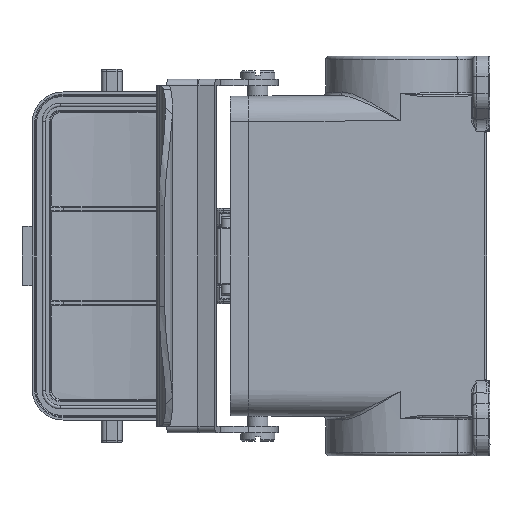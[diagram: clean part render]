
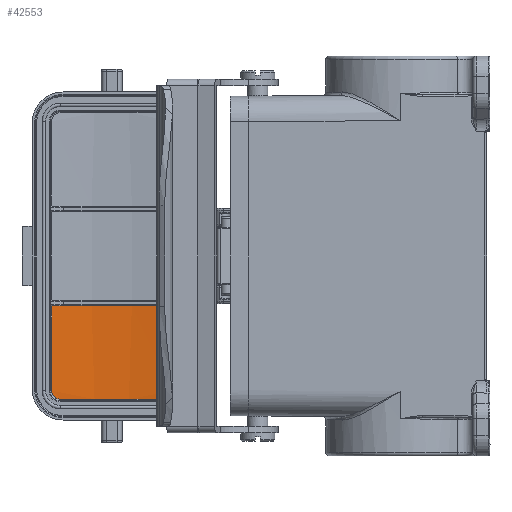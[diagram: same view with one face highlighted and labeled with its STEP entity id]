
A CAD part, left-side view. The second image highlights one B-rep face of the part: STEP entity #42553.
In plain terms, the highlighted cylindrical face has radius 123 mm (diameter 246 mm), a partial arc.
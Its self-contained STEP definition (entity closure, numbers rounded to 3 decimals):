
#165 = DIRECTION ( 'NONE',  ( 0., 0., -1. ) ) ;
#739 = ORIENTED_EDGE ( 'NONE', *, *, #29547, .T. ) ;
#1887 = AXIS2_PLACEMENT_3D ( 'NONE', #39900, #165, #13624 ) ;
#2045 = FACE_OUTER_BOUND ( 'NONE', #33071, .T. ) ;
#3684 = VERTEX_POINT ( 'NONE', #26567 ) ;
#4194 = VERTEX_POINT ( 'NONE', #19586 ) ;
#5144 = B_SPLINE_CURVE_WITH_KNOTS ( 'NONE', 3,
 ( #38411, #39269, #19519, #31600, #12716, #21889, #35059, #6104, #34917, #16029 ),
 .UNSPECIFIED., .F., .F.,
 ( 4, 2, 2, 2, 4 ),
 ( 0., 0.25, 0.5, 0.75, 1. ),
 .UNSPECIFIED. ) ;
#6104 = CARTESIAN_POINT ( 'NONE',  ( 45.698, 54.408, -40.054 ) ) ;
#7317 = CARTESIAN_POINT ( 'NONE',  ( -76.05, 71.915, -14.6 ) ) ;
#7903 = LINE ( 'NONE', #23179, #24617 ) ;
#9881 = CYLINDRICAL_SURFACE ( 'NONE', #21840, 123. ) ;
#10257 = CIRCLE ( 'NONE', #19316, 123. ) ;
#10314 = ORIENTED_EDGE ( 'NONE', *, *, #15851, .T. ) ;
#10398 = DIRECTION ( 'NONE',  ( 0., 0., 1. ) ) ;
#10429 = CIRCLE ( 'NONE', #1887, 123. ) ;
#12716 = CARTESIAN_POINT ( 'NONE',  ( 45.826, 55.321, -41.407 ) ) ;
#13624 = DIRECTION ( 'NONE',  ( -1., 0., 0. ) ) ;
#14079 = DIRECTION ( 'NONE',  ( 0., 0., -1. ) ) ;
#15227 = CARTESIAN_POINT ( 'NONE',  ( 45.688, 89.487, -39.4 ) ) ;
#15369 = CARTESIAN_POINT ( 'NONE',  ( 45.826, 88.511, -41.406 ) ) ;
#15507 = CARTESIAN_POINT ( 'NONE',  ( 45.688, 89.487, -39.734 ) ) ;
#15810 = ORIENTED_EDGE ( 'NONE', *, *, #31663, .T. ) ;
#15851 = EDGE_CURVE ( 'NONE', #3684, #15862, #7903, .T. ) ;
#15862 = VERTEX_POINT ( 'NONE', #23610 ) ;
#16029 = CARTESIAN_POINT ( 'NONE',  ( 45.688, 54.344, -39.4 ) ) ;
#18135 = LINE ( 'NONE', #27624, #37324 ) ;
#18431 = CARTESIAN_POINT ( 'NONE',  ( 45.76, 88.982, -40.94 ) ) ;
#18497 = CARTESIAN_POINT ( 'NONE',  ( 45.688, 89.487, -14.6 ) ) ;
#19316 = AXIS2_PLACEMENT_3D ( 'NONE', #7317, #10398, #34200 ) ;
#19519 = CARTESIAN_POINT ( 'NONE',  ( 45.943, 56.205, -41.838 ) ) ;
#19569 = B_SPLINE_CURVE_WITH_KNOTS ( 'NONE', 3,
 ( #15227, #15507, #31811, #42071, #18431, #15369, #38476, #41939, #35402, #25024 ),
 .UNSPECIFIED., .F., .F.,
 ( 4, 2, 2, 2, 4 ),
 ( 0., 0.25, 0.5, 0.75, 1. ),
 .UNSPECIFIED. ) ;
#19586 = CARTESIAN_POINT ( 'NONE',  ( 45.688, 89.487, -39.4 ) ) ;
#19628 = CARTESIAN_POINT ( 'NONE',  ( 46.024, 56.854, -41.9 ) ) ;
#20238 = ORIENTED_EDGE ( 'NONE', *, *, #38868, .T. ) ;
#20559 = DIRECTION ( 'NONE',  ( 0., -1., 0. ) ) ;
#21840 = AXIS2_PLACEMENT_3D ( 'NONE', #36963, #40299, #20559 ) ;
#21889 = CARTESIAN_POINT ( 'NONE',  ( 45.76, 54.847, -40.938 ) ) ;
#23086 = ORIENTED_EDGE ( 'NONE', *, *, #32079, .T. ) ;
#23179 = CARTESIAN_POINT ( 'NONE',  ( 45.688, 54.344, -39.593 ) ) ;
#23610 = CARTESIAN_POINT ( 'NONE',  ( 45.688, 54.344, -14.6 ) ) ;
#24617 = VECTOR ( 'NONE', #36636, 1000. ) ;
#25024 = CARTESIAN_POINT ( 'NONE',  ( 46.024, 86.977, -41.9 ) ) ;
#26567 = CARTESIAN_POINT ( 'NONE',  ( 45.688, 54.344, -39.4 ) ) ;
#27624 = CARTESIAN_POINT ( 'NONE',  ( 45.688, 89.487, 39.6 ) ) ;
#29547 = EDGE_CURVE ( 'NONE', #42574, #4194, #18135, .T. ) ;
#31600 = CARTESIAN_POINT ( 'NONE',  ( 45.862, 55.591, -41.586 ) ) ;
#31663 = EDGE_CURVE ( 'NONE', #4194, #33836, #19569, .T. ) ;
#31811 = CARTESIAN_POINT ( 'NONE',  ( 45.698, 89.422, -40.055 ) ) ;
#32079 = EDGE_CURVE ( 'NONE', #15862, #42574, #10257, .T. ) ;
#33071 = EDGE_LOOP ( 'NONE', ( #20238, #38600, #10314, #23086, #739, #15810 ) ) ;
#33836 = VERTEX_POINT ( 'NONE', #39423 ) ;
#34200 = DIRECTION ( 'NONE',  ( 0., -1., 0. ) ) ;
#34917 = CARTESIAN_POINT ( 'NONE',  ( 45.688, 54.344, -39.733 ) ) ;
#35059 = CARTESIAN_POINT ( 'NONE',  ( 45.734, 54.666, -40.669 ) ) ;
#35402 = CARTESIAN_POINT ( 'NONE',  ( 45.983, 87.308, -41.9 ) ) ;
#36636 = DIRECTION ( 'NONE',  ( 0., 0., 1. ) ) ;
#36963 = CARTESIAN_POINT ( 'NONE',  ( -76.05, 71.915, 42.4 ) ) ;
#37324 = VECTOR ( 'NONE', #14079, 1000. ) ;
#38411 = CARTESIAN_POINT ( 'NONE',  ( 46.024, 56.854, -41.9 ) ) ;
#38476 = CARTESIAN_POINT ( 'NONE',  ( 45.863, 88.238, -41.586 ) ) ;
#38600 = ORIENTED_EDGE ( 'NONE', *, *, #40351, .T. ) ;
#38868 = EDGE_CURVE ( 'NONE', #33836, #39713, #10429, .T. ) ;
#39269 = CARTESIAN_POINT ( 'NONE',  ( 45.983, 56.522, -41.9 ) ) ;
#39423 = CARTESIAN_POINT ( 'NONE',  ( 46.024, 86.977, -41.9 ) ) ;
#39713 = VERTEX_POINT ( 'NONE', #19628 ) ;
#39900 = CARTESIAN_POINT ( 'NONE',  ( -76.05, 71.915, -41.9 ) ) ;
#40299 = DIRECTION ( 'NONE',  ( 0., 0., 1. ) ) ;
#40351 = EDGE_CURVE ( 'NONE', #39713, #3684, #5144, .T. ) ;
#41939 = CARTESIAN_POINT ( 'NONE',  ( 45.943, 87.627, -41.837 ) ) ;
#42071 = CARTESIAN_POINT ( 'NONE',  ( 45.734, 89.165, -40.668 ) ) ;
#42553 = ADVANCED_FACE ( 'NONE', ( #2045 ), #9881, .F. ) ;
#42574 = VERTEX_POINT ( 'NONE', #18497 ) ;
